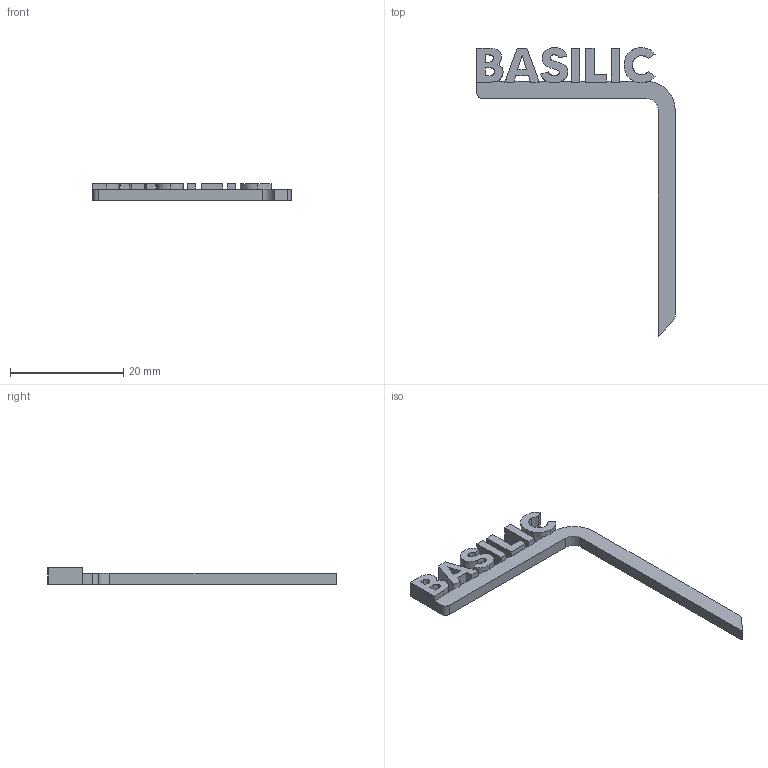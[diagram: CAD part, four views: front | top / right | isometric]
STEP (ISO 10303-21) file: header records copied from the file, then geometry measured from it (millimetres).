
FILE_DESCRIPTION(('STEP AP214'),'1');
FILE_NAME('BAsilic.stp','2025-04-24T13:18:19',(' '),(' '),'Spatial InterOp 3D',' ',' ');
FILE_SCHEMA(('AUTOMOTIVE_DESIGN { 1 0 10303 214 1 1 1 1 }'));
Length unit declared in the file: millimetre
Products named in the file (1): Pièce 8
Bounding box: 35.01 x 50.97 x 3 mm (x, y, z)
Volume: 749.4 mm3; surface area: 1371 mm2
Topology: 1 solids, 1 shells, 92 faces, 273 edges, 182 vertices
Faces by surface type: plane 60, extrusion 28, cylinder 4
Entity records: 4077 total; most frequent: CARTESIAN_POINT 936, ORIENTED_EDGE 546, DIRECTION 378, EDGE_CURVE 273, VECTOR 232, LINE 204, VERTEX_POINT 182, EDGE_LOOP 99
